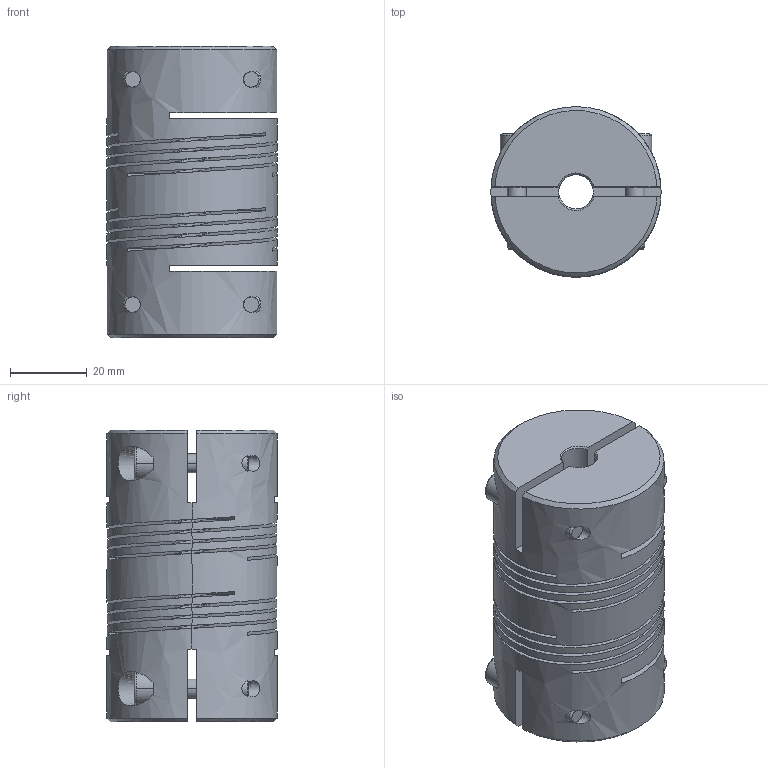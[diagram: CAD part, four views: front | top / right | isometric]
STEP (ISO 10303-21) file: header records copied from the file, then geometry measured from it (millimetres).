
FILE_DESCRIPTION((''),'2;1');
FILE_NAME('723_44','2026-02-24T',('SYSTEM'),(''),'PRO/ENGINEER BY PARAMETRIC TECHNOLOGY CORPORATION, 2016360','PRO/ENGINEER BY PARAMETRIC TECHNOLOGY CORPORATION, 2016360','');
FILE_SCHEMA(('AUTOMOTIVE_DESIGN { 1 0 10303 214 1 1 1 1 }'));
Length unit declared in the file: inch
Products named in the file (1): 723_44
Bounding box: 44.45 x 44.45 x 76.22 mm (x, y, z)
Volume: 91744.8 mm3; surface area: 44626.9 mm2
Topology: 1 solids, 1 shells, 195 faces, 575 edges, 383 vertices
Faces by surface type: bspline 195
Entity records: 15126 total; most frequent: CARTESIAN_POINT 9886, ORIENTED_EDGE 1134, EDGE_CURVE 567, B_SPLINE_CURVE_WITH_KNOTS 414, VERTEX_POINT 383, EDGE_LOOP 226, FACE_OUTER_BOUND 195, FILL_AREA_STYLE_COLOUR 195
